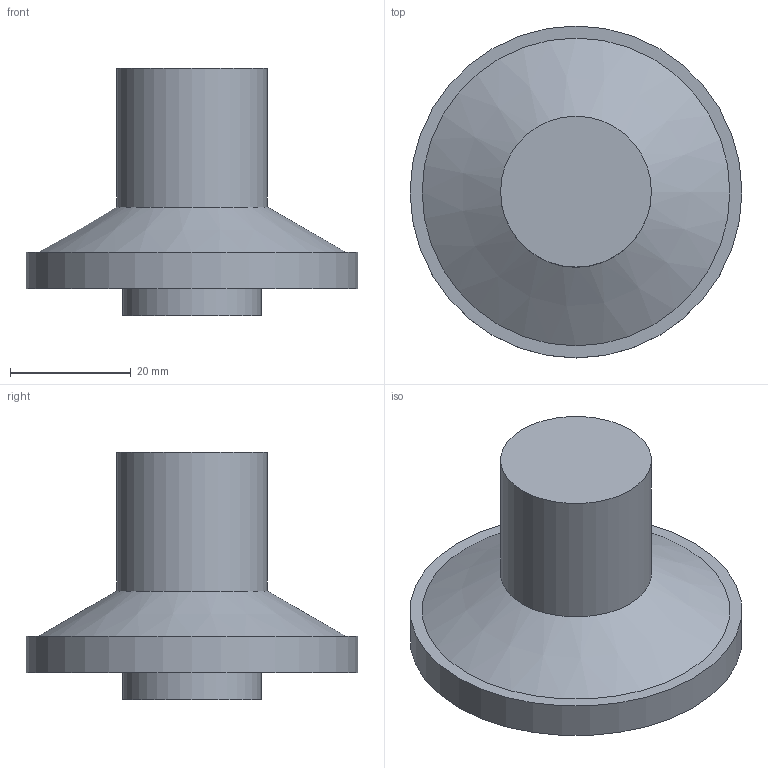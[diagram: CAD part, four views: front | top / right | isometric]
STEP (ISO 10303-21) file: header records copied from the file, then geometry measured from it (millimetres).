
FILE_DESCRIPTION(/* description */ (''),/* implementation_level */ '2;1');
FILE_NAME(/* name */ 'LM-5924-2672-01-B_EQ300 BOLT-IN-FOOT.stp',/* time_stamp */ '2024-05-02T14:58:58+01:00',/* author */ (''),/* organization */ (''),/* preprocessor_version */ 'ST-DEVELOPER v16.7',/* originating_system */ 'SIEMENS PLM Software NX 1946',/* authorisation */ '');
FILE_SCHEMA (('AUTOMOTIVE_DESIGN { 1 0 10303 214 3 1 1 1 }'));
Length unit declared in the file: millimetre
Products named in the file (1): LM-5924-2672-01-B_EQ300 BOLT-IN-FOOT
Bounding box: 55 x 55 x 41 mm (x, y, z)
Volume: 34964.7 mm3; surface area: 8743.9 mm2
Topology: 1 solids, 1 shells, 13 faces, 23 edges, 15 vertices
Faces by surface type: cylinder 5, plane 5, cone 3
Full cylindrical faces by diameter (mm): 6.9 x1, 13 x1, 23 x1, 25 x1, 55 x1
Entity records: 282 total; most frequent: DIRECTION 52, CARTESIAN_POINT 39, AXIS2_PLACEMENT_3D 26, FACE_BOUND 24, EDGE_LOOP 24, ORIENTED_EDGE 24, ADVANCED_FACE 13, VERTEX_POINT 13
